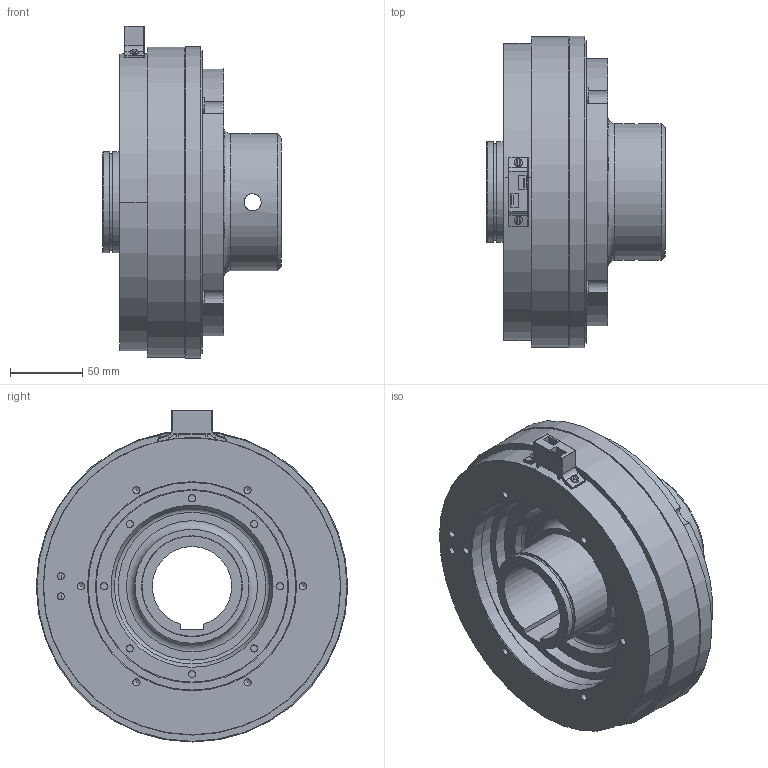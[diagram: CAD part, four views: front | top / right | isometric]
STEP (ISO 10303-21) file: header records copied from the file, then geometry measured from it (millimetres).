
FILE_DESCRIPTION(/* description */ (''),/* implementation_level */ '2;1');
FILE_NAME(/* name */ 'X:\INVENTOR\DISEGNI\08_Freni_Friz_Elettmag_Monodisco\08_26 EMSL_DF\EMSL_DF STEP\08_26_210_22 EMSL210_DF-BM-ME_S@STEP.stp',/* time_stamp */ '2018-04-24T09:01:28+02:00',/* author */ ('stefano'),/* organization */ (''),/* preprocessor_version */ 'ST-DEVELOPER v17',/* originating_system */ 'Autodesk Inventor 2018',/* authorisation */ '');
FILE_SCHEMA (('AUTOMOTIVE_DESIGN { 1 0 10303 214 3 1 1 }'));
Length unit declared in the file: millimetre
Products named in the file (1): 08_26_210_22 EMSL210_DF-BM-ME - Spina_Substitute_1
Bounding box: 124 x 216 x 230.22 mm (x, y, z)
Volume: 1685629.3 mm3; surface area: 371368.9 mm2
Topology: 3 solids, 3 shells, 645 faces, 1834 edges, 1177 vertices
Faces by surface type: cylinder 289, plane 218, cone 75, torus 43, sphere 20
Full cylindrical faces by diameter (mm): 2 x8, 4.917 x16, 5.6 x2, 6.647 x4, 7 x8, 10 x8, 11 x8, 11.835 x2, 13 x16, 38 x8, 67 x1, 70 x2, 95 x1, 110 x1, 133 x2, 134 x2, 136 x1, 144 x1, 144.5 x1, 145 x1, 154.5 x1, 198.5 x1, 206.5 x1, 210 x1, 215 x1, 216 x1
Entity records: 22169 total; most frequent: CARTESIAN_POINT 4304, DIRECTION 3959, ORIENTED_EDGE 3578, EDGE_CURVE 1789, AXIS2_PLACEMENT_3D 1656, VERTEX_POINT 1177, CIRCLE 1010, EDGE_LOOP 782
